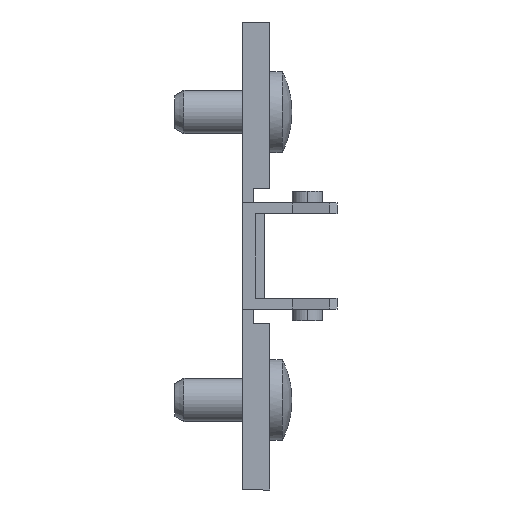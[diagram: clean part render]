
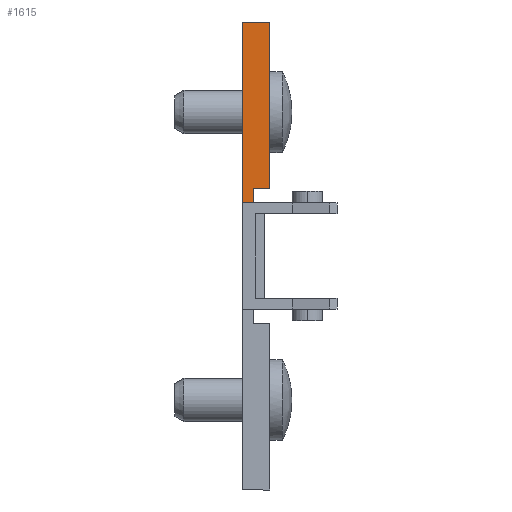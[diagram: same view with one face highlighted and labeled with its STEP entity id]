
A CAD part, front view. The second image highlights one B-rep face of the part: STEP entity #1615.
In plain terms, the highlighted planar face has unit normal (0, -1, 0).
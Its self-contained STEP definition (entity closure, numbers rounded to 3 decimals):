
#22 = CARTESIAN_POINT ( 'NONE',  ( 3., -9., 7.5 ) ) ;
#135 = VERTEX_POINT ( 'NONE', #22 ) ;
#239 = VERTEX_POINT ( 'NONE', #1544 ) ;
#285 = VERTEX_POINT ( 'NONE', #1585 ) ;
#346 = EDGE_CURVE ( 'NONE', #2931, #285, #2439, .T. ) ;
#428 = EDGE_CURVE ( 'NONE', #1714, #2932, #2726, .T. ) ;
#440 = EDGE_CURVE ( 'NONE', #135, #1714, #2700, .T. ) ;
#520 = EDGE_CURVE ( 'NONE', #2932, #2931, #1992, .T. ) ;
#588 = EDGE_CURVE ( 'NONE', #239, #135, #3134, .T. ) ;
#598 = EDGE_CURVE ( 'NONE', #285, #239, #3111, .T. ) ;
#682 = DIRECTION ( 'NONE',  ( -1., 0., 0. ) ) ;
#685 = CARTESIAN_POINT ( 'NONE',  ( 3., -9., 7.5 ) ) ;
#699 = CARTESIAN_POINT ( 'NONE',  ( 1.2, -9., 7.5 ) ) ;
#813 = DIRECTION ( 'NONE',  ( 0., 0., -1. ) ) ;
#964 = CARTESIAN_POINT ( 'NONE',  ( 0., -9., 5.9 ) ) ;
#965 = DIRECTION ( 'NONE',  ( -1., 0., 0. ) ) ;
#1109 = DIRECTION ( 'NONE',  ( 0., 0., -1. ) ) ;
#1121 = CARTESIAN_POINT ( 'NONE',  ( 3., -9., 26. ) ) ;
#1165 = CARTESIAN_POINT ( 'NONE',  ( 0., -9., 26. ) ) ;
#1166 = DIRECTION ( 'NONE',  ( 1., 0., 0. ) ) ;
#1284 = DIRECTION ( 'NONE',  ( 0., 1., 0. ) ) ;
#1285 = DIRECTION ( 'NONE',  ( 0., 0., 1. ) ) ;
#1293 = CARTESIAN_POINT ( 'NONE',  ( 0., -9., 5. ) ) ;
#1298 = PLANE ( 'NONE',  #3371 ) ;
#1544 = CARTESIAN_POINT ( 'NONE',  ( 3., -9., 26. ) ) ;
#1585 = CARTESIAN_POINT ( 'NONE',  ( 0., -9., 26. ) ) ;
#1594 = DIRECTION ( 'NONE',  ( 0., 0., 1. ) ) ;
#1602 = CARTESIAN_POINT ( 'NONE',  ( 0., -9., 5. ) ) ;
#1615 = ADVANCED_FACE ( 'NONE', ( #3045 ), #1298, .F. ) ;
#1714 = VERTEX_POINT ( 'NONE', #1761 ) ;
#1748 = CARTESIAN_POINT ( 'NONE',  ( 1.2, -9., 5.9 ) ) ;
#1751 = CARTESIAN_POINT ( 'NONE',  ( 0., -9., 5.9 ) ) ;
#1761 = CARTESIAN_POINT ( 'NONE',  ( 1.2, -9., 7.5 ) ) ;
#1992 = LINE ( 'NONE', #964, #1993 ) ;
#1993 = VECTOR ( 'NONE', #965, 1000. ) ;
#2069 = ORIENTED_EDGE ( 'NONE', *, *, #520, .F. ) ;
#2072 = ORIENTED_EDGE ( 'NONE', *, *, #346, .F. ) ;
#2074 = ORIENTED_EDGE ( 'NONE', *, *, #428, .F. ) ;
#2078 = ORIENTED_EDGE ( 'NONE', *, *, #588, .F. ) ;
#2079 = ORIENTED_EDGE ( 'NONE', *, *, #440, .F. ) ;
#2080 = ORIENTED_EDGE ( 'NONE', *, *, #598, .F. ) ;
#2240 = EDGE_LOOP ( 'NONE', ( #2072, #2069, #2074, #2079, #2078, #2080 ) ) ;
#2439 = LINE ( 'NONE', #1602, #2857 ) ;
#2685 = VECTOR ( 'NONE', #682, 1000. ) ;
#2700 = LINE ( 'NONE', #685, #2685 ) ;
#2722 = VECTOR ( 'NONE', #813, 1000. ) ;
#2726 = LINE ( 'NONE', #699, #2722 ) ;
#2857 = VECTOR ( 'NONE', #1594, 1000. ) ;
#2931 = VERTEX_POINT ( 'NONE', #1751 ) ;
#2932 = VERTEX_POINT ( 'NONE', #1748 ) ;
#3045 = FACE_OUTER_BOUND ( 'NONE', #2240, .T. ) ;
#3110 = VECTOR ( 'NONE', #1166, 1000. ) ;
#3111 = LINE ( 'NONE', #1165, #3110 ) ;
#3128 = VECTOR ( 'NONE', #1109, 1000. ) ;
#3134 = LINE ( 'NONE', #1121, #3128 ) ;
#3371 = AXIS2_PLACEMENT_3D ( 'NONE', #1293, #1284, #1285 ) ;
